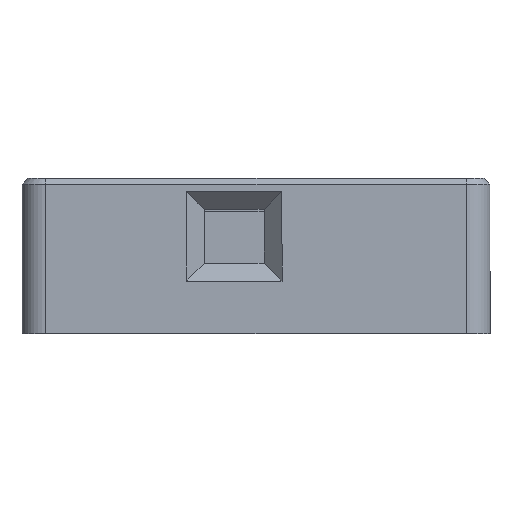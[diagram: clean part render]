
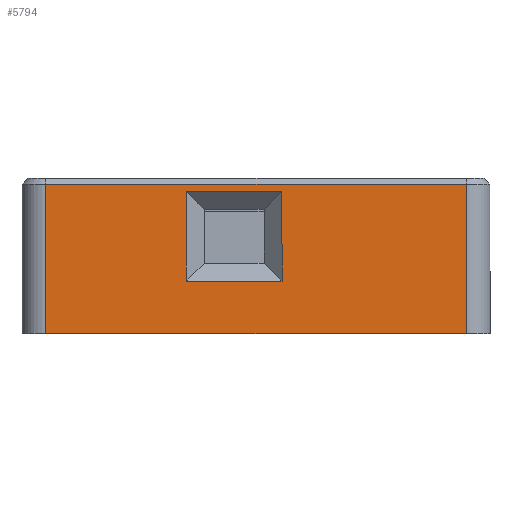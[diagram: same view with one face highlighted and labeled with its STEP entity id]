
A CAD part, left-side view. The second image highlights one B-rep face of the part: STEP entity #5794.
In plain terms, the highlighted planar face has unit normal (-1, 0, 0).
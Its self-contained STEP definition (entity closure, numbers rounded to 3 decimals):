
#141 = ORIENTED_EDGE ( 'NONE', *, *, #13549, .T. ) ;
#591 = ORIENTED_EDGE ( 'NONE', *, *, #1827, .T. ) ;
#1809 = ORIENTED_EDGE ( 'NONE', *, *, #11349, .T. ) ;
#1827 = EDGE_CURVE ( 'NONE', #2333, #9242, #15437, .T. ) ;
#2333 = VERTEX_POINT ( 'NONE', #3096 ) ;
#2432 = EDGE_LOOP ( 'NONE', ( #17539, #7208, #141, #13523 ) ) ;
#3096 = CARTESIAN_POINT ( 'NONE',  ( -64.273, 56.479, 8.25 ) ) ;
#3191 = VECTOR ( 'NONE', #15248, 1000. ) ;
#3804 = CARTESIAN_POINT ( 'NONE',  ( -64.273, 48.479, 8.25 ) ) ;
#4551 = VECTOR ( 'NONE', #8250, 1000. ) ;
#5384 = CARTESIAN_POINT ( 'NONE',  ( -64.273, 68.229, 2.25 ) ) ;
#5794 = ADVANCED_FACE ( 'NONE', ( #7988, #16294 ), #9537, .F. ) ;
#6208 = EDGE_CURVE ( 'NONE', #16768, #15037, #15188, .T. ) ;
#6538 = CARTESIAN_POINT ( 'NONE',  ( -64.273, 33.079, -3.65 ) ) ;
#6693 = VECTOR ( 'NONE', #17385, 1000. ) ;
#6814 = DIRECTION ( 'NONE',  ( 0., -1., 0. ) ) ;
#6827 = CARTESIAN_POINT ( 'NONE',  ( -64.273, 56.479, 2.25 ) ) ;
#7208 = ORIENTED_EDGE ( 'NONE', *, *, #6208, .T. ) ;
#7518 = EDGE_LOOP ( 'NONE', ( #591, #11404, #1809, #12944 ) ) ;
#7543 = CARTESIAN_POINT ( 'NONE',  ( -64.273, 50.229, -3.65 ) ) ;
#7759 = CARTESIAN_POINT ( 'NONE',  ( -64.273, 33.079, 2.25 ) ) ;
#7988 = FACE_BOUND ( 'NONE', #7518, .T. ) ;
#8180 = VERTEX_POINT ( 'NONE', #6538 ) ;
#8250 = DIRECTION ( 'NONE',  ( 0., 1., 0. ) ) ;
#8299 = CARTESIAN_POINT ( 'NONE',  ( -64.273, 48.479, 0.75 ) ) ;
#8406 = DIRECTION ( 'NONE',  ( 0., -1., 0. ) ) ;
#8514 = CARTESIAN_POINT ( 'NONE',  ( -64.273, 56.479, 0.75 ) ) ;
#9242 = VERTEX_POINT ( 'NONE', #3804 ) ;
#9537 = PLANE ( 'NONE',  #13868 ) ;
#9633 = DIRECTION ( 'NONE',  ( 1., 0., 0. ) ) ;
#9921 = LINE ( 'NONE', #6827, #13385 ) ;
#9923 = CARTESIAN_POINT ( 'NONE',  ( -64.273, 68.229, 8.85 ) ) ;
#9943 = VECTOR ( 'NONE', #11649, 1000. ) ;
#9993 = CARTESIAN_POINT ( 'NONE',  ( -64.273, 68.229, -3.65 ) ) ;
#10569 = VECTOR ( 'NONE', #8406, 1000. ) ;
#10594 = EDGE_CURVE ( 'NONE', #9242, #11489, #14959, .T. ) ;
#10663 = LINE ( 'NONE', #7759, #11633 ) ;
#10836 = CARTESIAN_POINT ( 'NONE',  ( -64.273, 33.079, 8.85 ) ) ;
#11095 = CARTESIAN_POINT ( 'NONE',  ( -64.273, 50.229, 2.25 ) ) ;
#11349 = EDGE_CURVE ( 'NONE', #11489, #13218, #17211, .T. ) ;
#11404 = ORIENTED_EDGE ( 'NONE', *, *, #10594, .T. ) ;
#11489 = VERTEX_POINT ( 'NONE', #16464 ) ;
#11633 = VECTOR ( 'NONE', #16061, 1000. ) ;
#11649 = DIRECTION ( 'NONE',  ( 0., -1., 0. ) ) ;
#12318 = DIRECTION ( 'NONE',  ( 0., 0., -1. ) ) ;
#12944 = ORIENTED_EDGE ( 'NONE', *, *, #14048, .T. ) ;
#13193 = CARTESIAN_POINT ( 'NONE',  ( -64.273, 54.979, 0.75 ) ) ;
#13218 = VERTEX_POINT ( 'NONE', #8514 ) ;
#13385 = VECTOR ( 'NONE', #15496, 1000. ) ;
#13523 = ORIENTED_EDGE ( 'NONE', *, *, #15237, .T. ) ;
#13542 = EDGE_CURVE ( 'NONE', #8180, #16768, #10663, .T. ) ;
#13549 = EDGE_CURVE ( 'NONE', #15037, #15513, #16517, .T. ) ;
#13868 = AXIS2_PLACEMENT_3D ( 'NONE', #11095, #9633, #6814 ) ;
#14015 = VECTOR ( 'NONE', #12318, 1000. ) ;
#14048 = EDGE_CURVE ( 'NONE', #13218, #2333, #9921, .T. ) ;
#14959 = LINE ( 'NONE', #8299, #14015 ) ;
#15037 = VERTEX_POINT ( 'NONE', #9923 ) ;
#15188 = LINE ( 'NONE', #17828, #4551 ) ;
#15237 = EDGE_CURVE ( 'NONE', #15513, #8180, #17309, .T. ) ;
#15248 = DIRECTION ( 'NONE',  ( 0., 0., -1. ) ) ;
#15437 = LINE ( 'NONE', #17985, #10569 ) ;
#15496 = DIRECTION ( 'NONE',  ( 0., 0., 1. ) ) ;
#15513 = VERTEX_POINT ( 'NONE', #9993 ) ;
#16061 = DIRECTION ( 'NONE',  ( 0., 0., 1. ) ) ;
#16294 = FACE_OUTER_BOUND ( 'NONE', #2432, .T. ) ;
#16464 = CARTESIAN_POINT ( 'NONE',  ( -64.273, 48.479, 0.75 ) ) ;
#16517 = LINE ( 'NONE', #5384, #3191 ) ;
#16768 = VERTEX_POINT ( 'NONE', #10836 ) ;
#17211 = LINE ( 'NONE', #13193, #6693 ) ;
#17309 = LINE ( 'NONE', #7543, #9943 ) ;
#17385 = DIRECTION ( 'NONE',  ( 0., 1., 0. ) ) ;
#17539 = ORIENTED_EDGE ( 'NONE', *, *, #13542, .T. ) ;
#17828 = CARTESIAN_POINT ( 'NONE',  ( -64.273, 68.229, 8.85 ) ) ;
#17985 = CARTESIAN_POINT ( 'NONE',  ( -64.273, 50.229, 8.25 ) ) ;
